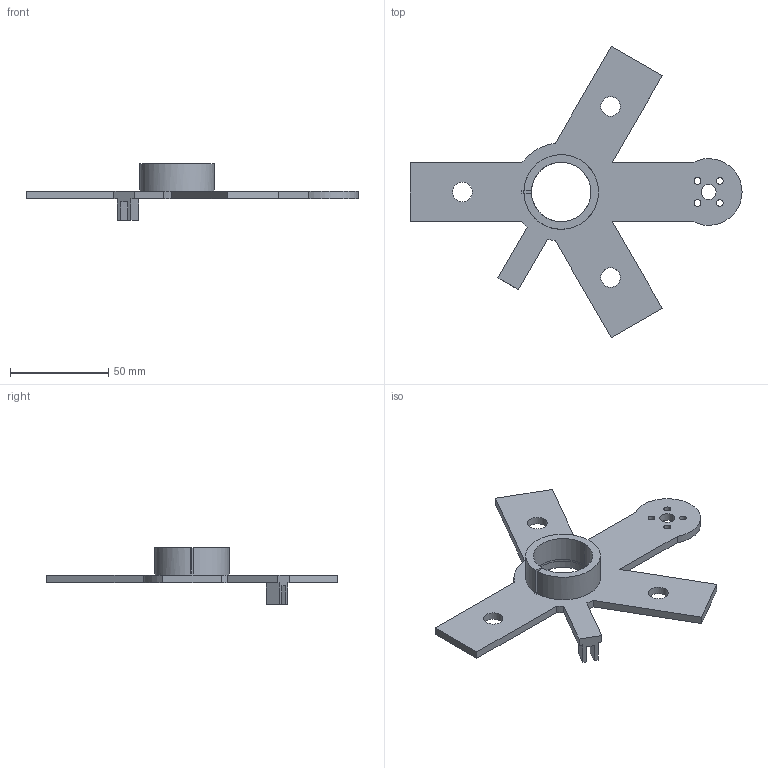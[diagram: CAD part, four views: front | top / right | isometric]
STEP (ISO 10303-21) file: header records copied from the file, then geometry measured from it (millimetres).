
FILE_DESCRIPTION(('FreeCAD Model'),'2;1');
FILE_NAME('Open CASCADE Shape Model','2026-10-30T15:58:29',('FreeCAD'),( 'FreeCAD'),'Open CASCADE STEP processor 7.8','FreeCAD','Unknown');
FILE_SCHEMA(('AUTOMOTIVE_DESIGN { 1 0 10303 214 1 1 1 1 }'));
Length unit declared in the file: millimetre
Products named in the file (1): Open CASCADE STEP translator 7.8 1
Bounding box: 169.1 x 148.37 x 28.99 mm (x, y, z)
Volume: 38499.1 mm3; surface area: 23409 mm2
Topology: 1 solids, 1 shells, 48 faces, 154 edges, 108 vertices
Faces by surface type: plane 29, cylinder 19
Full cylindrical faces by diameter (mm): 3.4 x4, 7.6 x1, 10 x3, 30.3 x1
Entity records: 1791 total; most frequent: CARTESIAN_POINT 311, DIRECTION 311, ORIENTED_EDGE 308, EDGE_CURVE 154, AXIS2_PLACEMENT_3D 108, VERTEX_POINT 108, LINE 95, VECTOR 95
